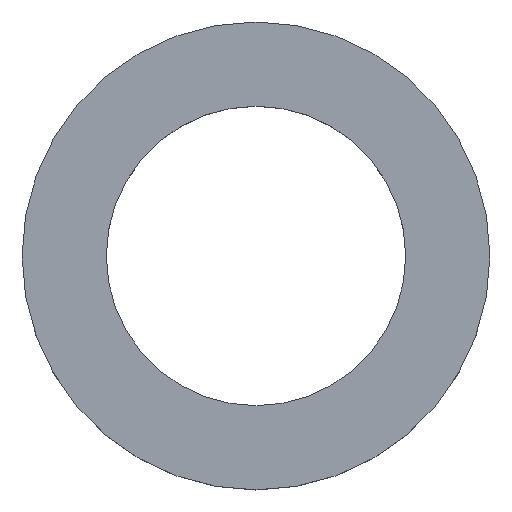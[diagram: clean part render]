
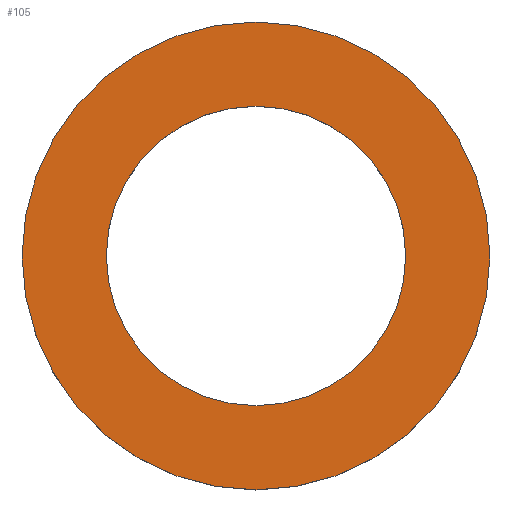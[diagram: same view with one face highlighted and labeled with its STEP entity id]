
A CAD part, top view. The second image highlights one B-rep face of the part: STEP entity #105.
In plain terms, the highlighted planar face has unit normal (0, 0, 1).
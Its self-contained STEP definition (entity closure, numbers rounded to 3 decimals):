
#21 = EDGE_CURVE('',#22,#22,#24,.T.);
#22 = VERTEX_POINT('',#23);
#23 = CARTESIAN_POINT('',(145.,0.,91.));
#24 = SURFACE_CURVE('',#25,(#30,#42),.PCURVE_S1.);
#25 = CIRCLE('',#26,10.);
#26 = AXIS2_PLACEMENT_3D('',#27,#28,#29);
#27 = CARTESIAN_POINT('',(135.,0.,91.));
#28 = DIRECTION('',(0.,0.,1.));
#29 = DIRECTION('',(1.,0.,-0.));
#30 = PCURVE('',#31,#36);
#31 = CYLINDRICAL_SURFACE('',#32,10.);
#32 = AXIS2_PLACEMENT_3D('',#33,#34,#35);
#33 = CARTESIAN_POINT('',(135.,0.,88.));
#34 = DIRECTION('',(0.,0.,1.));
#35 = DIRECTION('',(1.,0.,-0.));
#36 = DEFINITIONAL_REPRESENTATION('',(#37),#41);
#37 = LINE('',#38,#39);
#38 = CARTESIAN_POINT('',(0.,3.));
#39 = VECTOR('',#40,1.);
#40 = DIRECTION('',(1.,0.));
#41 = ( GEOMETRIC_REPRESENTATION_CONTEXT(2) 
PARAMETRIC_REPRESENTATION_CONTEXT() REPRESENTATION_CONTEXT('2D SPACE',''
  ) );
#42 = PCURVE('',#43,#48);
#43 = PLANE('',#44);
#44 = AXIS2_PLACEMENT_3D('',#45,#46,#47);
#45 = CARTESIAN_POINT('',(135.,0.,91.));
#46 = DIRECTION('',(0.,0.,1.));
#47 = DIRECTION('',(1.,0.,-0.));
#48 = DEFINITIONAL_REPRESENTATION('',(#49),#53);
#49 = CIRCLE('',#50,10.);
#50 = AXIS2_PLACEMENT_2D('',#51,#52);
#51 = CARTESIAN_POINT('',(0.,0.));
#52 = DIRECTION('',(1.,0.));
#53 = ( GEOMETRIC_REPRESENTATION_CONTEXT(2) 
PARAMETRIC_REPRESENTATION_CONTEXT() REPRESENTATION_CONTEXT('2D SPACE',''
  ) );
#105 = ADVANCED_FACE('',(#106,#109),#43,.T.);
#106 = FACE_BOUND('',#107,.T.);
#107 = EDGE_LOOP('',(#108));
#108 = ORIENTED_EDGE('',*,*,#21,.T.);
#109 = FACE_BOUND('',#110,.T.);
#110 = EDGE_LOOP('',(#111));
#111 = ORIENTED_EDGE('',*,*,#112,.F.);
#112 = EDGE_CURVE('',#113,#113,#115,.T.);
#113 = VERTEX_POINT('',#114);
#114 = CARTESIAN_POINT('',(141.4,0.,91.));
#115 = SURFACE_CURVE('',#116,(#121,#128),.PCURVE_S1.);
#116 = CIRCLE('',#117,6.4);
#117 = AXIS2_PLACEMENT_3D('',#118,#119,#120);
#118 = CARTESIAN_POINT('',(135.,0.,91.));
#119 = DIRECTION('',(0.,0.,1.));
#120 = DIRECTION('',(1.,0.,-0.));
#121 = PCURVE('',#43,#122);
#122 = DEFINITIONAL_REPRESENTATION('',(#123),#127);
#123 = CIRCLE('',#124,6.4);
#124 = AXIS2_PLACEMENT_2D('',#125,#126);
#125 = CARTESIAN_POINT('',(0.,0.));
#126 = DIRECTION('',(1.,0.));
#127 = ( GEOMETRIC_REPRESENTATION_CONTEXT(2) 
PARAMETRIC_REPRESENTATION_CONTEXT() REPRESENTATION_CONTEXT('2D SPACE',''
  ) );
#128 = PCURVE('',#129,#134);
#129 = CYLINDRICAL_SURFACE('',#130,6.4);
#130 = AXIS2_PLACEMENT_3D('',#131,#132,#133);
#131 = CARTESIAN_POINT('',(135.,0.,88.));
#132 = DIRECTION('',(0.,0.,1.));
#133 = DIRECTION('',(1.,0.,-0.));
#134 = DEFINITIONAL_REPRESENTATION('',(#135),#139);
#135 = LINE('',#136,#137);
#136 = CARTESIAN_POINT('',(0.,3.));
#137 = VECTOR('',#138,1.);
#138 = DIRECTION('',(1.,0.));
#139 = ( GEOMETRIC_REPRESENTATION_CONTEXT(2) 
PARAMETRIC_REPRESENTATION_CONTEXT() REPRESENTATION_CONTEXT('2D SPACE',''
  ) );
